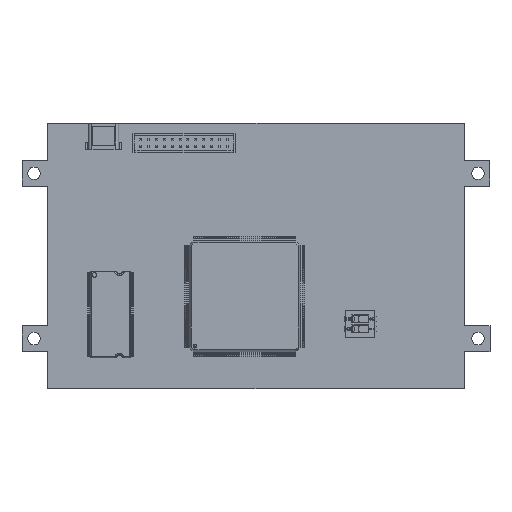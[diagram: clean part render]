
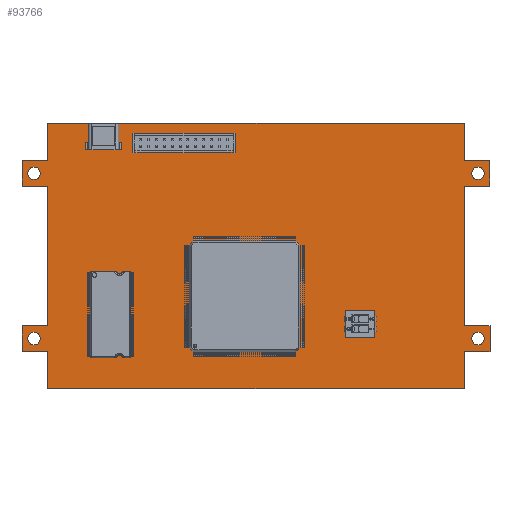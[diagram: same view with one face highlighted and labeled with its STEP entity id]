
A CAD part, top view. The second image highlights one B-rep face of the part: STEP entity #93766.
In plain terms, the highlighted planar face has unit normal (0, 0, 1).
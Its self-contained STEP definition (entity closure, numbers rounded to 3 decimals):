
#19=FACE_BOUND($,#10573,.T.);
#20=FACE_BOUND($,#10574,.T.);
#21=FACE_BOUND($,#10575,.T.);
#22=FACE_BOUND($,#10576,.T.);
#23=FACE_BOUND($,#10577,.T.);
#2624=CIRCLE($,#99620,1.575);
#2626=CIRCLE($,#99623,1.575);
#2628=CIRCLE($,#99626,1.575);
#2630=CIRCLE($,#99629,1.575);
#10573=EDGE_LOOP($,(#64366));
#10574=EDGE_LOOP($,(#64367));
#10575=EDGE_LOOP($,(#64368));
#10576=EDGE_LOOP($,(#64369));
#10577=EDGE_LOOP($,(#64370,#64371,#64372,#64373,#64374,#64375,#64376,#64377,
#64378,#64379,#64380,#64381,#64382,#64383,#64384,#64385,#64386,#64387,#64388,
#64389));
#17080=LINE($,#138564,#27740);
#17084=LINE($,#138573,#27744);
#17090=LINE($,#138585,#27750);
#17094=LINE($,#138594,#27754);
#17096=LINE($,#138600,#27756);
#17100=LINE($,#138606,#27760);
#17102=LINE($,#138612,#27762);
#17106=LINE($,#138618,#27766);
#17109=LINE($,#138626,#27769);
#17112=LINE($,#138630,#27772);
#17114=LINE($,#138633,#27774);
#17117=LINE($,#138641,#27777);
#17120=LINE($,#138645,#27780);
#17122=LINE($,#138648,#27782);
#17124=LINE($,#138653,#27784);
#17127=LINE($,#138659,#27787);
#17130=LINE($,#138663,#27790);
#17132=LINE($,#138668,#27792);
#17135=LINE($,#138674,#27795);
#17138=LINE($,#138678,#27798);
#27740=VECTOR($,#111529,9.375);
#27744=VECTOR($,#111535,35.35);
#27750=VECTOR($,#111543,9.375);
#27754=VECTOR($,#111549,9.375);
#27756=VECTOR($,#111553,9.375);
#27760=VECTOR($,#111559,105.5);
#27762=VECTOR($,#111563,35.35);
#27766=VECTOR($,#111569,105.5);
#27769=VECTOR($,#111574,6.55);
#27772=VECTOR($,#111579,6.55);
#27774=VECTOR($,#111583,6.55);
#27777=VECTOR($,#111588,6.55);
#27780=VECTOR($,#111593,6.55);
#27782=VECTOR($,#111597,6.55);
#27784=VECTOR($,#111601,6.55);
#27787=VECTOR($,#111606,6.55);
#27790=VECTOR($,#111611,6.55);
#27792=VECTOR($,#111615,6.55);
#27795=VECTOR($,#111620,6.55);
#27798=VECTOR($,#111625,6.55);
#38140=VERTEX_POINT($,#138542);
#38142=VERTEX_POINT($,#138547);
#38144=VERTEX_POINT($,#138552);
#38146=VERTEX_POINT($,#138557);
#38148=VERTEX_POINT($,#138561);
#38149=VERTEX_POINT($,#138563);
#38152=VERTEX_POINT($,#138570);
#38153=VERTEX_POINT($,#138572);
#38156=VERTEX_POINT($,#138579);
#38158=VERTEX_POINT($,#138583);
#38160=VERTEX_POINT($,#138588);
#38162=VERTEX_POINT($,#138592);
#38164=VERTEX_POINT($,#138597);
#38165=VERTEX_POINT($,#138599);
#38168=VERTEX_POINT($,#138609);
#38169=VERTEX_POINT($,#138611);
#38173=VERTEX_POINT($,#138623);
#38174=VERTEX_POINT($,#138625);
#38177=VERTEX_POINT($,#138638);
#38178=VERTEX_POINT($,#138640);
#38180=VERTEX_POINT($,#138652);
#38182=VERTEX_POINT($,#138658);
#38184=VERTEX_POINT($,#138667);
#38186=VERTEX_POINT($,#138673);
#48080=EDGE_CURVE($,#38140,#38140,#2624,.T.);
#48082=EDGE_CURVE($,#38142,#38142,#2626,.T.);
#48084=EDGE_CURVE($,#38144,#38144,#2628,.T.);
#48086=EDGE_CURVE($,#38146,#38146,#2630,.T.);
#48088=EDGE_CURVE($,#38149,#38148,#17080,.T.);
#48092=EDGE_CURVE($,#38153,#38152,#17084,.T.);
#48098=EDGE_CURVE($,#38156,#38158,#17090,.T.);
#48102=EDGE_CURVE($,#38160,#38162,#17094,.T.);
#48104=EDGE_CURVE($,#38165,#38164,#17096,.T.);
#48108=EDGE_CURVE($,#38162,#38149,#17100,.T.);
#48110=EDGE_CURVE($,#38169,#38168,#17102,.T.);
#48114=EDGE_CURVE($,#38158,#38165,#17106,.T.);
#48117=EDGE_CURVE($,#38174,#38173,#17109,.T.);
#48120=EDGE_CURVE($,#38164,#38174,#17112,.T.);
#48122=EDGE_CURVE($,#38173,#38169,#17114,.T.);
#48125=EDGE_CURVE($,#38178,#38177,#17117,.T.);
#48128=EDGE_CURVE($,#38168,#38178,#17120,.T.);
#48130=EDGE_CURVE($,#38177,#38160,#17122,.T.);
#48132=EDGE_CURVE($,#38180,#38153,#17124,.T.);
#48135=EDGE_CURVE($,#38182,#38180,#17127,.T.);
#48138=EDGE_CURVE($,#38148,#38182,#17130,.T.);
#48140=EDGE_CURVE($,#38184,#38156,#17132,.T.);
#48143=EDGE_CURVE($,#38186,#38184,#17135,.T.);
#48146=EDGE_CURVE($,#38152,#38186,#17138,.T.);
#64366=ORIENTED_EDGE($,*,*,#48080,.T.);
#64367=ORIENTED_EDGE($,*,*,#48082,.T.);
#64368=ORIENTED_EDGE($,*,*,#48084,.T.);
#64369=ORIENTED_EDGE($,*,*,#48086,.T.);
#64370=ORIENTED_EDGE($,*,*,#48146,.T.);
#64371=ORIENTED_EDGE($,*,*,#48143,.T.);
#64372=ORIENTED_EDGE($,*,*,#48140,.T.);
#64373=ORIENTED_EDGE($,*,*,#48098,.T.);
#64374=ORIENTED_EDGE($,*,*,#48114,.T.);
#64375=ORIENTED_EDGE($,*,*,#48104,.T.);
#64376=ORIENTED_EDGE($,*,*,#48120,.T.);
#64377=ORIENTED_EDGE($,*,*,#48117,.T.);
#64378=ORIENTED_EDGE($,*,*,#48122,.T.);
#64379=ORIENTED_EDGE($,*,*,#48110,.T.);
#64380=ORIENTED_EDGE($,*,*,#48128,.T.);
#64381=ORIENTED_EDGE($,*,*,#48125,.T.);
#64382=ORIENTED_EDGE($,*,*,#48130,.T.);
#64383=ORIENTED_EDGE($,*,*,#48102,.T.);
#64384=ORIENTED_EDGE($,*,*,#48108,.T.);
#64385=ORIENTED_EDGE($,*,*,#48088,.T.);
#64386=ORIENTED_EDGE($,*,*,#48138,.T.);
#64387=ORIENTED_EDGE($,*,*,#48135,.T.);
#64388=ORIENTED_EDGE($,*,*,#48132,.T.);
#64389=ORIENTED_EDGE($,*,*,#48092,.T.);
#85385=PLANE($,#99650);
#93766=ADVANCED_FACE($,(#19,#20,#21,#22,#23),#85385,.T.);
#99620=AXIS2_PLACEMENT_3D($,#138543,#111506,#111507);
#99623=AXIS2_PLACEMENT_3D($,#138548,#111512,#111513);
#99626=AXIS2_PLACEMENT_3D($,#138553,#111518,#111519);
#99629=AXIS2_PLACEMENT_3D($,#138558,#111524,#111525);
#99650=AXIS2_PLACEMENT_3D($,#138679,#111626,#111627);
#111506=DIRECTION('center_axis',(0.,0.,
-1.));
#111507=DIRECTION('ref_axis',(1.,0.,0.));
#111512=DIRECTION('center_axis',(0.,0.,
-1.));
#111513=DIRECTION('ref_axis',(1.,0.,0.));
#111518=DIRECTION('center_axis',(0.,0.,
-1.));
#111519=DIRECTION('ref_axis',(1.,0.,0.));
#111524=DIRECTION('center_axis',(0.,0.,
-1.));
#111525=DIRECTION('ref_axis',(1.,0.,0.));
#111529=DIRECTION($,(0.,-1.,0.));
#111535=DIRECTION($,(0.,-1.,0.));
#111543=DIRECTION($,(0.,-1.,0.));
#111549=DIRECTION($,(0.,1.,0.));
#111553=DIRECTION($,(0.,1.,0.));
#111559=DIRECTION($,(-1.,0.,0.));
#111563=DIRECTION($,(0.,1.,0.));
#111569=DIRECTION($,(1.,0.,0.));
#111574=DIRECTION($,(0.,1.,0.));
#111579=DIRECTION($,(1.,0.,0.));
#111583=DIRECTION($,(-1.,0.,0.));
#111588=DIRECTION($,(0.,1.,0.));
#111593=DIRECTION($,(1.,0.,0.));
#111597=DIRECTION($,(-1.,0.,0.));
#111601=DIRECTION($,(1.,0.,0.));
#111606=DIRECTION($,(0.,-1.,0.));
#111611=DIRECTION($,(-1.,0.,0.));
#111615=DIRECTION($,(1.,0.,0.));
#111620=DIRECTION($,(0.,-1.,0.));
#111625=DIRECTION($,(-1.,0.,0.));
#111626=DIRECTION('center_axis',(0.,0.,
1.));
#111627=DIRECTION('ref_axis',(1.,0.,0.));
#138542=CARTESIAN_POINT('',(48.493,71.331,38.525));
#138543=CARTESIAN_POINT('Origin',(46.918,71.331,38.525));
#138547=CARTESIAN_POINT('',(-64.007,113.231,38.525));
#138548=CARTESIAN_POINT('Origin',(-65.582,113.231,38.525));
#138552=CARTESIAN_POINT('',(-64.007,71.331,38.525));
#138553=CARTESIAN_POINT('Origin',(-65.582,71.331,38.525));
#138557=CARTESIAN_POINT('',(48.493,113.231,38.525));
#138558=CARTESIAN_POINT('Origin',(46.918,113.231,38.525));
#138561=CARTESIAN_POINT('',(-62.082,116.506,38.525));
#138563=CARTESIAN_POINT('',(-62.082,125.881,38.525));
#138564=CARTESIAN_POINT($,(-62.082,58.681,38.525));
#138570=CARTESIAN_POINT('',(-62.082,74.606,38.525));
#138572=CARTESIAN_POINT('',(-62.082,109.956,38.525));
#138573=CARTESIAN_POINT($,(-62.082,58.681,38.525));
#138579=CARTESIAN_POINT('',(-62.082,68.056,38.525));
#138583=CARTESIAN_POINT('',(-62.082,58.681,38.525));
#138585=CARTESIAN_POINT($,(-62.082,58.681,38.525));
#138588=CARTESIAN_POINT('',(43.418,116.506,38.525));
#138592=CARTESIAN_POINT('',(43.418,125.881,38.525));
#138594=CARTESIAN_POINT($,(43.418,125.881,38.525));
#138597=CARTESIAN_POINT('',(43.418,68.056,38.525));
#138599=CARTESIAN_POINT('',(43.418,58.681,38.525));
#138600=CARTESIAN_POINT($,(43.418,125.881,38.525));
#138606=CARTESIAN_POINT($,(-62.082,125.881,38.525));
#138609=CARTESIAN_POINT('',(43.418,109.956,38.525));
#138611=CARTESIAN_POINT('',(43.418,74.606,38.525));
#138612=CARTESIAN_POINT($,(43.418,125.881,38.525));
#138618=CARTESIAN_POINT($,(43.418,58.681,38.525));
#138623=CARTESIAN_POINT('',(49.968,74.606,38.525));
#138625=CARTESIAN_POINT('',(49.968,68.056,38.525));
#138626=CARTESIAN_POINT($,(49.968,74.606,38.525));
#138630=CARTESIAN_POINT($,(49.968,68.056,38.525));
#138633=CARTESIAN_POINT($,(43.418,74.606,38.525));
#138638=CARTESIAN_POINT('',(49.968,116.506,38.525));
#138640=CARTESIAN_POINT('',(49.968,109.956,38.525));
#138641=CARTESIAN_POINT($,(49.968,116.506,38.525));
#138645=CARTESIAN_POINT($,(49.968,109.956,38.525));
#138648=CARTESIAN_POINT($,(43.418,116.506,38.525));
#138652=CARTESIAN_POINT('',(-68.632,109.956,38.525));
#138653=CARTESIAN_POINT($,(-62.082,109.956,38.525));
#138658=CARTESIAN_POINT('',(-68.632,116.506,38.525));
#138659=CARTESIAN_POINT($,(-68.632,109.956,38.525));
#138663=CARTESIAN_POINT($,(-68.632,116.506,38.525));
#138667=CARTESIAN_POINT('',(-68.632,68.056,38.525));
#138668=CARTESIAN_POINT($,(-68.632,68.056,38.525));
#138673=CARTESIAN_POINT('',(-68.632,74.606,38.525));
#138674=CARTESIAN_POINT($,(-68.632,74.606,38.525));
#138678=CARTESIAN_POINT($,(-62.082,74.606,38.525));
#138679=CARTESIAN_POINT('Origin',(-65.357,71.331,38.525));
